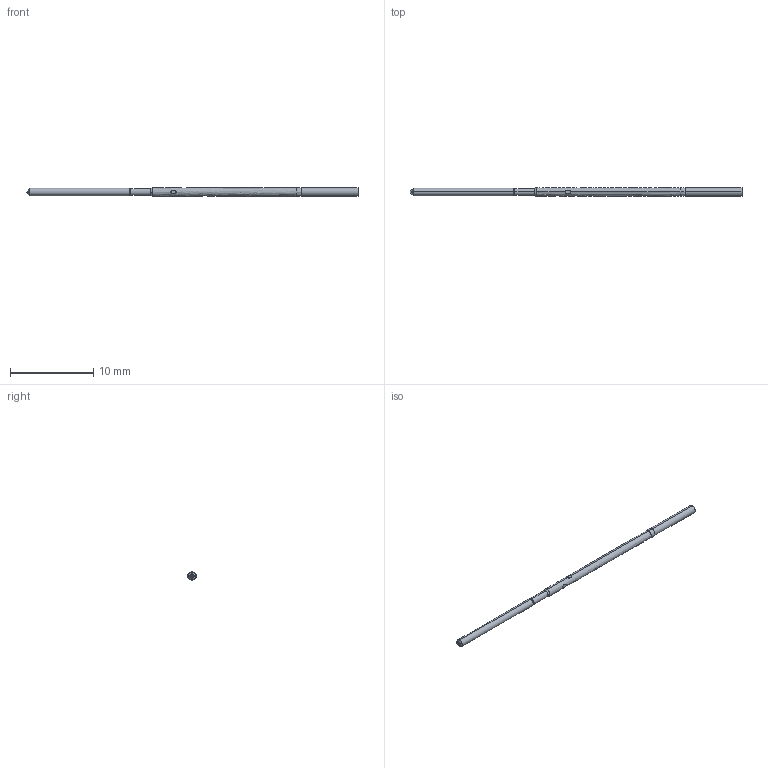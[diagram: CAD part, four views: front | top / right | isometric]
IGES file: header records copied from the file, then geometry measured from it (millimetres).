
Start section: SolidWorks IGES file using analytic representation for surfaces
Global section: file name: Z:\probe solid model mockups\Solidworks models\DER -050 IGS files\DER-050J Full.IGS; native system: SolidWorks 2006 by SolidWorks Corporation; preprocessor: SolidWorks 2006 by SolidWorks Corporation; author: tsakatani; date: 071218.084430; units: inch
Bounding box: 39.77 x 1.07 x 1.08 mm (x, y, z)
Surface area: 177.2 mm2 (no closed solid volume)
Topology: 0 solids, 0 shells, 36 faces, 345 edges, 340 vertices
Faces by surface type: revolution 29, bspline 7
